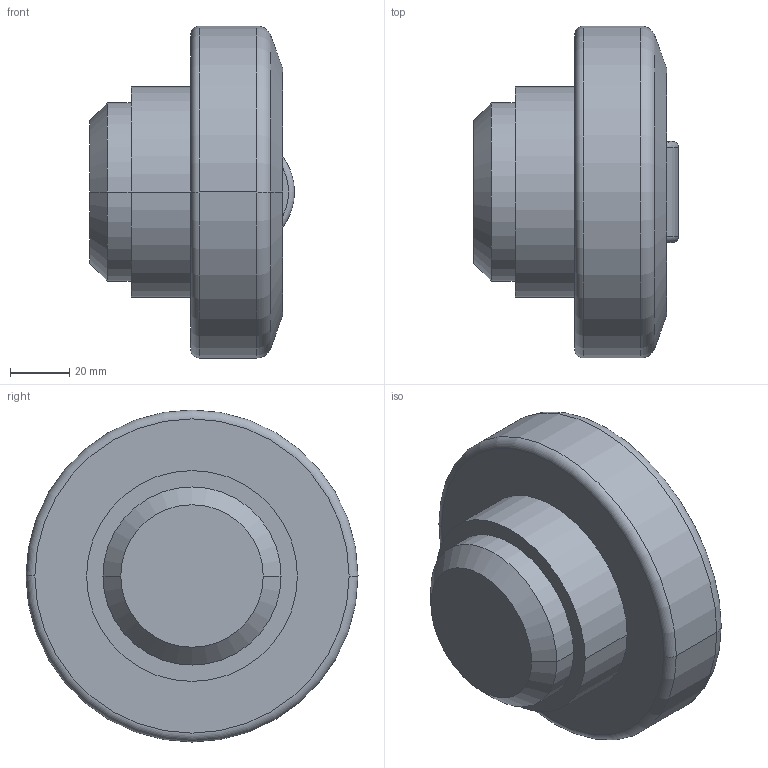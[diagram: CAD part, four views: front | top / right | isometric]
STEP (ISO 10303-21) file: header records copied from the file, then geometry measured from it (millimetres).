
FILE_DESCRIPTION (( 'STEP AP214' ), '1' );
FILE_NAME ('4.0061 PR.STEP', '2013-12-05T08:27:06', ( 'usuario' ), ( 'Hewlett-Packard Company' ), 'SwSTEP 2.0', 'SolidWorks 2017', '' );
FILE_SCHEMA (( 'AUTOMOTIVE_DESIGN' ));
Length unit declared in the file: millimetre
Products named in the file (1): 4.0061 PR
Bounding box: 69 x 111.8 x 111.8 mm (x, y, z)
Volume: 408827.2 mm3; surface area: 34745.3 mm2
Topology: 1 solids, 1 shells, 23 faces, 46 edges, 28 vertices
Faces by surface type: cylinder 7, torus 6, plane 6, cone 4
Entity records: 690 total; most frequent: CARTESIAN_POINT 158, DIRECTION 118, ORIENTED_EDGE 92, AXIS2_PLACEMENT_3D 52, EDGE_CURVE 46, VERTEX_POINT 28, CIRCLE 28, EDGE_LOOP 26
